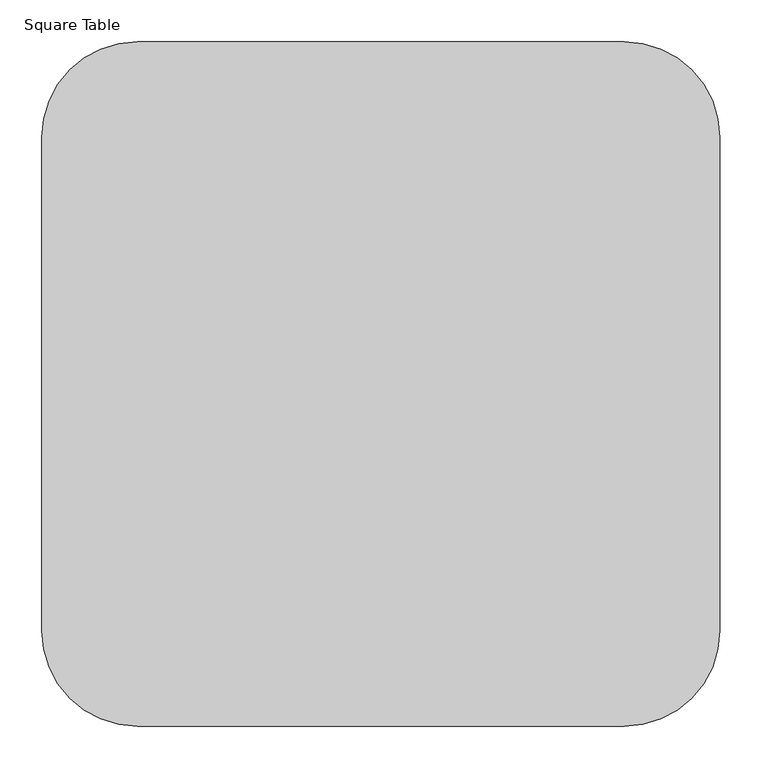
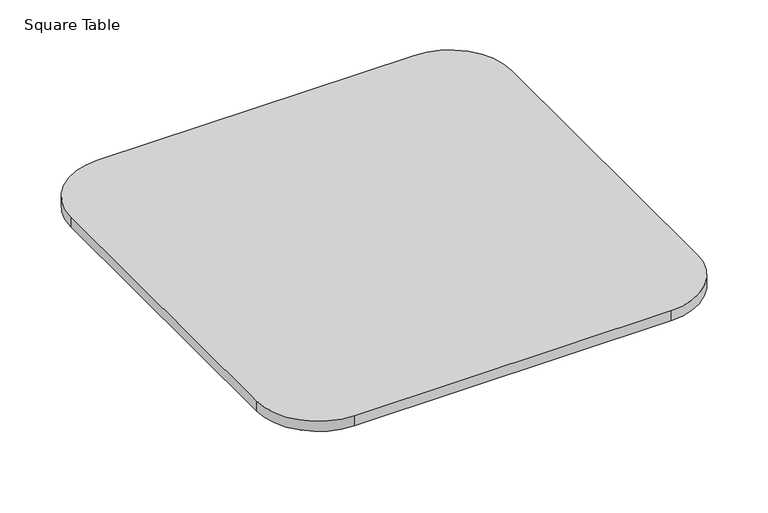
"""IFC4 building model written with IfcOpenShell, lengths in millimetres: furniture geometry, Coalesse_AM_Table_Occasional_Ensemble_Modular : Square Table."""

from ifc_helpers import new_model, si_unit, point, frame, frame_2d, origin, place, context, project, spatial, polyline, circle_curve, trimmed, segment, composite_curve, outline, extrude, source, transform, mapped, element, save


def square_table_5ea6825c(model_context):
    return source(origin(), model_context, "Body", "SweptSolid", [
        extrude(outline(composite_curve([segment(trimmed(circle_curve(frame_2d((108.865872, 125.0107271)), 5.08), [point((103.785872, 125.0107271))], [point((108.865872, 130.0907271))], False, "CARTESIAN"), True, "CONTINUOUS"), segment(polyline([(108.865872, 130.0907271), (128.9876575, 130.0907271)]), True, "CONTINUOUS"), segment(trimmed(circle_curve(frame_2d((128.9876575, 125.0107271)), 5.08), [point((128.9876575, 130.0907271))], [point((134.0676575, 125.0107271))], False, "CARTESIAN"), True, "CONTINUOUS"), segment(polyline([(134.0676575, 125.0107271), (134.0676575, 75.5475648)]), True, "CONTINUOUS"), segment(trimmed(circle_curve(frame_2d((129.0980339, 75.5475648)), 4.9696236), [point((134.0676575, 75.5475648))], [point((129.0980339, 70.5779413))], False, "CARTESIAN"), True, "CONTINUOUS"), segment(polyline([(129.0980339, 70.5779413), (108.865872, 70.5779413)]), True, "CONTINUOUS"), segment(trimmed(circle_curve(frame_2d((108.865872, 75.6579413)), 5.08), [point((108.865872, 70.5779413))], [point((103.785872, 75.6579413))], False, "CARTESIAN"), True, "CONTINUOUS"), segment(polyline([(103.785872, 75.6579413), (103.785872, 125.0107271)]), True, "CONTINUOUS")], self_intersect=False)), frame((-335.7539124, 0.0, 0.0), z_axis=(1.0, 0.0, 0.0), x_axis=(0.0, 1.0, 0.0)), (0.0, 0.0, 1.0), 655.8650983),
        extrude(outline(composite_curve([segment(trimmed(circle_curve(frame_2d((688.6735965, 125.0107271)), 5.08), [point((683.5935965, 125.0107271))], [point((688.6735965, 130.0907271))], False, "CARTESIAN"), True, "CONTINUOUS"), segment(polyline([(688.6735965, 130.0907271), (708.795382, 130.0907271)]), True, "CONTINUOUS"), segment(trimmed(circle_curve(frame_2d((708.795382, 125.0107271)), 5.08), [point((708.795382, 130.0907271))], [point((713.875382, 125.0107271))], False, "CARTESIAN"), True, "CONTINUOUS"), segment(polyline([(713.875382, 125.0107271), (713.875382, 75.5475648)]), True, "CONTINUOUS"), segment(trimmed(circle_curve(frame_2d((708.9057584, 75.5475648)), 4.9696236), [point((713.875382, 75.5475648))], [point((708.9057584, 70.5779413))], False, "CARTESIAN"), True, "CONTINUOUS"), segment(polyline([(708.9057584, 70.5779413), (688.6735965, 70.5779413)]), True, "CONTINUOUS"), segment(trimmed(circle_curve(frame_2d((688.6735965, 75.6579413)), 5.08), [point((688.6735965, 70.5779413))], [point((683.5935965, 75.6579413))], False, "CARTESIAN"), True, "CONTINUOUS"), segment(polyline([(683.5935965, 75.6579413), (683.5935965, 125.0107271)]), True, "CONTINUOUS")], self_intersect=False)), frame((-335.7539124, 0.0, 0.0), z_axis=(1.0, 0.0, 0.0), x_axis=(0.0, 1.0, 0.0)), (0.0, 0.0, 1.0), 655.8650983),
        extrude(outline(composite_curve([segment(trimmed(circle_curve(frame_2d((283.3218042, 704.1787629)), 114.3031093), [point((283.3218042, 818.4818722))], [point((397.6249135, 704.1787629))], False, "CARTESIAN"), True, "CONTINUOUS"), segment(polyline([(397.6249135, 704.1787629), (397.6249135, 114.3031093)]), True, "CONTINUOUS"), segment(trimmed(circle_curve(frame_2d((283.3218042, 114.3031093)), 114.3031093), [point((397.6249135, 114.3031093))], [point((283.3218042, 0.0))], False, "CARTESIAN"), True, "CONTINUOUS"), segment(polyline([(283.3218042, 0.0), (-298.9670833, 0.0)]), True, "CONTINUOUS"), segment(trimmed(circle_curve(frame_2d((-298.9670833, 114.3)), 114.3), [point((-298.9670833, 0.0))], [point((-413.2670833, 114.3))], False, "CARTESIAN"), True, "CONTINUOUS"), segment(polyline([(-413.2670833, 114.3), (-413.2670833, 704.1818722)]), True, "CONTINUOUS"), segment(trimmed(circle_curve(frame_2d((-298.9670833, 704.1818722)), 114.3), [point((-413.2670833, 704.1818722))], [point((-298.9670833, 818.4818722))], False, "CARTESIAN"), True, "CONTINUOUS"), segment(polyline([(-298.9670833, 818.4818722), (283.3218042, 818.4818722)]), True, "CONTINUOUS")], self_intersect=False)), frame((0.0, 0.0, 131.1254356), z_axis=(0.0, 0.0, 1.0), x_axis=(1.0, 0.0, 0.0)), (0.0, 0.0, 1.0), 19.622158),
    ])


if __name__ == "__main__":
    model = new_model("IFC4")
    model_context = context("Model", 3, world=origin())
    ifc_project = project(units=[si_unit("LENGTHUNIT", "METRE", prefix="MILLI")], contexts=[model_context])
    site = spatial("IfcSite", under=ifc_project)
    building = spatial("IfcBuilding", under=site)
    placement = place(None, origin())
    square_table_shape = square_table_5ea6825c(model_context)
    element("IfcFurniture", 1, ObjectType="Coalesse_AM_Table_Occasional_Ensemble_Modular : Square Table", at=placement, inside=building, context=model_context, shape_type="MappedRepresentation", body=[
        mapped(square_table_shape, transform((0.0, 0.0, 0.0), x_axis=(1.0, 0.0, 0.0), y_axis=(0.0, 1.0, 0.0), z_axis=(0.0, 0.0, 1.0))),
    ])
    save(model, "model.ifc")
